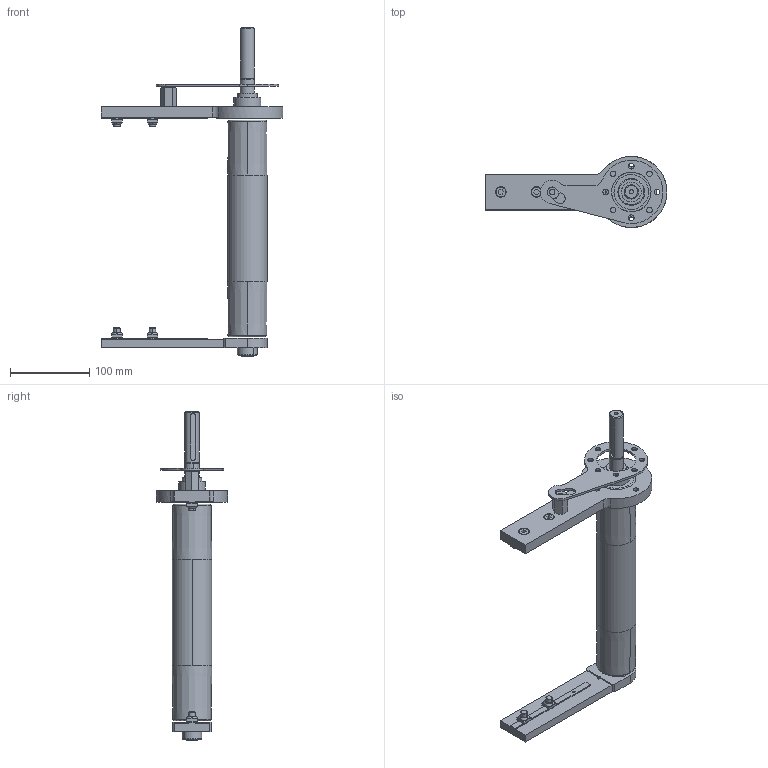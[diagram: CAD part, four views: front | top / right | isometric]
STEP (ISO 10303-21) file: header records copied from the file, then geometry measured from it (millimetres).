
FILE_DESCRIPTION (( 'STEP AP203' ), '1' );
FILE_NAME ('084.050.KD.44.250.STEP', '2016-07-21T06:56:14', ( '' ), ( '' ), 'SwSTEP 2.0', 'SolidWorks 2016', '' );
FILE_SCHEMA (( 'CONFIG_CONTROL_DESIGN' ));
Length unit declared in the file: millimetre
Products named in the file (1): 084.050.KD.44.250
Bounding box: 230 x 90 x 416 mm (x, y, z)
Surface area: 137389.7 mm2 (no closed solid volume)
Topology: 0 solids, 26 shells, 298 faces, 907 edges, 628 vertices
Faces by surface type: plane 142, cylinder 110, cone 22, torus 20, sphere 4
Entity records: 10831 total; most frequent: CARTESIAN_POINT 2440, DIRECTION 1849, ORIENTED_EDGE 1548, EDGE_CURVE 897, AXIS2_PLACEMENT_3D 707, VERTEX_POINT 622, LINE 435, VECTOR 435
